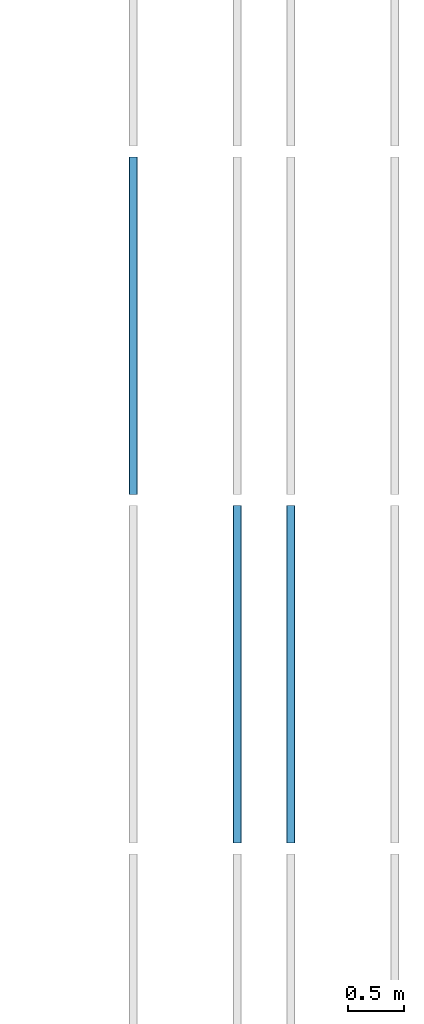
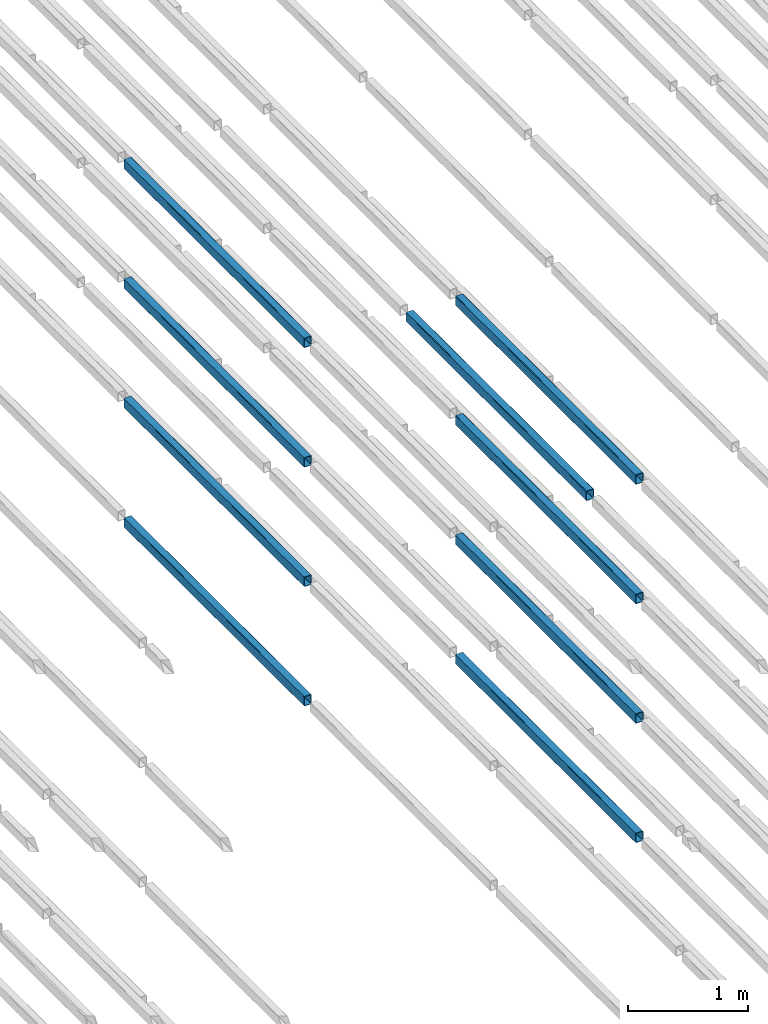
# One storey, part 44 of 290: 9 beams.
"""IFC2X3 building model written with IfcOpenShell, lengths in metres."""

from ifc_helpers import new_model, entity, si_unit, converted_unit, derived_unit, direction, frame, frame_2d, origin, place, context, subcontext, project, spatial, polyline, circle_curve, parameter, trimmed, segment, composite_curve, outline, extrude, material, type_object, element, save


model = new_model("IFC2X3")

# Units and contexts
model_context = context("Model", 3, precision=1e-05, world=origin(), true_north=direction((6.12303176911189e-17, 1.0)))
body_context = subcontext(model_context, "Body", "Model", "MODEL_VIEW")
ifc_project = project(units=[si_unit("LENGTHUNIT", "METRE"), si_unit("AREAUNIT", "SQUARE_METRE"), si_unit("VOLUMEUNIT", "CUBIC_METRE"), converted_unit("PLANEANGLEUNIT", "DEGREE", entity("IfcRatioMeasure", 0.0174532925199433), si_unit("PLANEANGLEUNIT", "RADIAN"), dimensions=[0, 0, 0, 0, 0, 0, 0]), si_unit("MASSUNIT", "GRAM", prefix="KILO"), derived_unit("MASSDENSITYUNIT", [(si_unit("MASSUNIT", "GRAM", prefix="KILO"), 1), (si_unit("LENGTHUNIT", "METRE"), -3)]), derived_unit("MOMENTOFINERTIAUNIT", [(si_unit("LENGTHUNIT", "METRE"), 4)]), si_unit("TIMEUNIT", "SECOND"), si_unit("FREQUENCYUNIT", "HERTZ"), si_unit("THERMODYNAMICTEMPERATUREUNIT", "DEGREE_CELSIUS"), derived_unit("THERMALTRANSMITTANCEUNIT", [(si_unit("MASSUNIT", "GRAM", prefix="KILO"), 1), (si_unit("THERMODYNAMICTEMPERATUREUNIT", "KELVIN"), -1), (si_unit("TIMEUNIT", "SECOND"), -3)]), derived_unit("VOLUMETRICFLOWRATEUNIT", [(si_unit("LENGTHUNIT", "METRE"), 3), (si_unit("TIMEUNIT", "SECOND"), -1)]), si_unit("ELECTRICCURRENTUNIT", "AMPERE"), si_unit("ELECTRICVOLTAGEUNIT", "VOLT"), si_unit("POWERUNIT", "WATT"), si_unit("FORCEUNIT", "NEWTON", prefix="KILO"), si_unit("ILLUMINANCEUNIT", "LUX"), si_unit("LUMINOUSFLUXUNIT", "LUMEN"), si_unit("LUMINOUSINTENSITYUNIT", "CANDELA"), derived_unit("USERDEFINED", [(si_unit("MASSUNIT", "GRAM", prefix="KILO"), -1), (si_unit("LENGTHUNIT", "METRE"), -2), (si_unit("TIMEUNIT", "SECOND"), 3), (si_unit("LUMINOUSFLUXUNIT", "LUMEN"), 1)]), derived_unit("LINEARVELOCITYUNIT", [(si_unit("LENGTHUNIT", "METRE"), 1), (si_unit("TIMEUNIT", "SECOND"), -1)]), si_unit("PRESSUREUNIT", "PASCAL"), derived_unit("USERDEFINED", [(si_unit("LENGTHUNIT", "METRE"), -2), (si_unit("MASSUNIT", "GRAM", prefix="KILO"), 1), (si_unit("TIMEUNIT", "SECOND"), -2)]), derived_unit("LINEARFORCEUNIT", [(si_unit("MASSUNIT", "GRAM", prefix="KILO"), 1), (si_unit("LENGTHUNIT", "METRE"), 1), (si_unit("TIMEUNIT", "SECOND"), -2), (si_unit("LENGTHUNIT", "METRE"), -1)]), derived_unit("PLANARFORCEUNIT", [(si_unit("MASSUNIT", "GRAM", prefix="KILO"), 1), (si_unit("LENGTHUNIT", "METRE"), 1), (si_unit("TIMEUNIT", "SECOND"), -2), (si_unit("LENGTHUNIT", "METRE"), -2)])], contexts=[model_context])

# Site, building, storey
site_placement = place(None, origin())
site = spatial("IfcSite", under=ifc_project, at=site_placement, Name="Default", CompositionType="ELEMENT")
building_placement = place(site_placement, origin())
building = spatial("IfcBuilding", under=site, at=building_placement, CompositionType="ELEMENT")
storey_placement = place(building_placement, frame((0.0, 0.0, 4.0)))
storey = spatial("IfcBuildingStorey", under=building, at=storey_placement, Name="01_OG", CompositionType="ELEMENT", Elevation=4.0)

# Beams
ifc_material = material(Name="Metall - Baustahl S235 blau")
beam_type = type_object("IfcBeamType", Name="RHS Träger (EN 10219-2):RHS 100 x 75 x 5", PredefinedType="NOTDEFINED")
beam_1_placement = place(storey_placement, frame((-195.565111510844, 30.248088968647, 2.445), z_axis=(0.0, 0.0, 1.0), x_axis=(0.0, 1.0, 0.0)))
element("IfcBeam", 1, at=beam_1_placement, inside=storey, type_object=beam_type, material=ifc_material, Name="RHS Träger (EN 10219-2):RHS 100 x 75 x 5", ObjectType="RHS Träger (EN 10219-2):RHS 100 x 75 x 5", context=body_context, shape_type="SweptSolid", body=[
    extrude(outline(composite_curve([segment(polyline([(-0.0399999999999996, -0.0374999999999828), (0.0399999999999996, -0.0374999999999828)]), True, "CONTINUOUS"), segment(trimmed(circle_curve(frame_2d((0.0399999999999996, -0.0274999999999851), x_axis=(0.0, 1.0)), 0.01), [parameter(180.0)], [parameter(270.0)], True, "PARAMETER"), True, "CONTINUOUS"), segment(polyline([(0.0500000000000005, -0.0274999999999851), (0.0500000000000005, 0.0274999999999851)]), True, "CONTINUOUS"), segment(trimmed(circle_curve(frame_2d((0.0399999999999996, 0.0274999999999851), x_axis=(0.0, 1.0)), 0.01), [parameter(270.0)], [parameter(4.07110999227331e-13)], True, "PARAMETER"), True, "CONTINUOUS"), segment(polyline([(0.0399999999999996, 0.0375000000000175), (-0.0399999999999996, 0.0375000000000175)]), True, "CONTINUOUS"), segment(trimmed(circle_curve(frame_2d((-0.0399999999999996, 0.0274999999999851), x_axis=(0.0, 1.0)), 0.01), [parameter(360.0)], [parameter(90.0000000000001)], True, "PARAMETER"), True, "CONTINUOUS"), segment(polyline([(-0.0499999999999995, 0.0274999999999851), (-0.0499999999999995, -0.0274999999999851)]), True, "CONTINUOUS"), segment(trimmed(circle_curve(frame_2d((-0.0399999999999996, -0.0274999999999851), x_axis=(0.0, 1.0)), 0.01), [parameter(90.0000000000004)], [parameter(180.0)], True, "PARAMETER"), True, "CONTINUOUS")], self_intersect=False), holes=[composite_curve([segment(trimmed(circle_curve(frame_2d((-0.0400000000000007, 0.0274999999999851), x_axis=(0.0, 1.0)), 0.005), [parameter(360.0)], [parameter(89.9999999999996)], True, "PARAMETER"), False, "CONTINUOUS"), segment(polyline([(-0.0400000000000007, 0.0325000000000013), (0.0399999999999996, 0.0325000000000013)]), True, "CONTINUOUS"), segment(trimmed(circle_curve(frame_2d((0.0399999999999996, 0.0274999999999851), x_axis=(0.0, 1.0)), 0.005), [parameter(270.0)], [parameter(0.0)], True, "PARAMETER"), False, "CONTINUOUS"), segment(polyline([(0.0449999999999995, 0.0274999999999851), (0.0449999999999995, -0.0274999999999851)]), True, "CONTINUOUS"), segment(trimmed(circle_curve(frame_2d((0.0399999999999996, -0.0274999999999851), x_axis=(0.0, 1.0)), 0.005), [parameter(180.0)], [parameter(269.999999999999)], True, "PARAMETER"), False, "CONTINUOUS"), segment(polyline([(0.0399999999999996, -0.0325000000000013), (-0.0400000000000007, -0.0325000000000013)]), True, "CONTINUOUS"), segment(trimmed(circle_curve(frame_2d((-0.0400000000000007, -0.0274999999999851), x_axis=(0.0, 1.0)), 0.005), [parameter(90.0000000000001)], [parameter(180.0)], True, "PARAMETER"), False, "CONTINUOUS"), segment(polyline([(-0.0450000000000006, -0.0274999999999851), (-0.0450000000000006, 0.0274999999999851)]), True, "CONTINUOUS")], self_intersect=False)]), frame((9.99999999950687e-05, -0.0375000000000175, -0.0500000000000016), z_axis=(1.0, 0.0, 0.0), x_axis=(0.0, 0.0, -1.0)), (0.0, 0.0, 1.0), 2.9998),
])
beam_2_placement = place(storey_placement, frame((-195.015111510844, 30.248088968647, -1.2), z_axis=(0.0, 0.0, 1.0), x_axis=(0.0, 1.0, 0.0)))
element("IfcBeam", 2, at=beam_2_placement, inside=storey, type_object=beam_type, material=ifc_material, Name="RHS Träger (EN 10219-2):RHS 100 x 75 x 5", ObjectType="RHS Träger (EN 10219-2):RHS 100 x 75 x 5", context=body_context, shape_type="SweptSolid", body=[
    extrude(outline(composite_curve([segment(trimmed(circle_curve(frame_2d((-0.0275000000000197, -0.0400000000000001), x_axis=(1.0, 0.0)), 0.01), [parameter(180.0)], [parameter(270.0)], True, "PARAMETER"), True, "CONTINUOUS"), segment(polyline([(-0.0275000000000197, -0.05), (0.0274999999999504, -0.05)]), True, "CONTINUOUS"), segment(trimmed(circle_curve(frame_2d((0.0274999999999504, -0.0400000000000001), x_axis=(1.0, 0.0)), 0.01), [parameter(270.0)], [parameter(5.08888749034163e-14)], True, "PARAMETER"), True, "CONTINUOUS"), segment(polyline([(0.0374999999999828, -0.0400000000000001), (0.0374999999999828, 0.0400000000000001)]), True, "CONTINUOUS"), segment(trimmed(circle_curve(frame_2d((0.0274999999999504, 0.0400000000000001), x_axis=(1.0, 0.0)), 0.01), [parameter(360.0)], [parameter(89.9999999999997)], True, "PARAMETER"), True, "CONTINUOUS"), segment(polyline([(0.0274999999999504, 0.05), (-0.0275000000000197, 0.05)]), True, "CONTINUOUS"), segment(trimmed(circle_curve(frame_2d((-0.0275000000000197, 0.0400000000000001), x_axis=(1.0, 0.0)), 0.01), [parameter(90.0000000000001)], [parameter(180.0)], True, "PARAMETER"), True, "CONTINUOUS"), segment(polyline([(-0.0375000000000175, 0.0400000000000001), (-0.0375000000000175, -0.0400000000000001)]), True, "CONTINUOUS")], self_intersect=False), holes=[composite_curve([segment(polyline([(0.0274999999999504, -0.0450000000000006), (-0.0275000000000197, -0.0450000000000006)]), True, "CONTINUOUS"), segment(trimmed(circle_curve(frame_2d((-0.0275000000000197, -0.0400000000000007), x_axis=(1.0, 0.0)), 0.005), [parameter(180.0)], [parameter(270.0)], True, "PARAMETER"), False, "CONTINUOUS"), segment(polyline([(-0.0325000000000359, -0.0400000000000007), (-0.0325000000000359, 0.039999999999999)]), True, "CONTINUOUS"), segment(trimmed(circle_curve(frame_2d((-0.0275000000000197, 0.039999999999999), x_axis=(1.0, 0.0)), 0.005), [parameter(90.0000000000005)], [parameter(180.0)], True, "PARAMETER"), False, "CONTINUOUS"), segment(polyline([(-0.0275000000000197, 0.044999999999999), (0.0274999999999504, 0.044999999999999)]), True, "CONTINUOUS"), segment(trimmed(circle_curve(frame_2d((0.0274999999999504, 0.039999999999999), x_axis=(1.0, 0.0)), 0.005), [parameter(0.0)], [parameter(90.0000000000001)], True, "PARAMETER"), False, "CONTINUOUS"), segment(polyline([(0.0324999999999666, 0.039999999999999), (0.0324999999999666, -0.0400000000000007)]), True, "CONTINUOUS"), segment(trimmed(circle_curve(frame_2d((0.0274999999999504, -0.0400000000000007), x_axis=(1.0, 0.0)), 0.005), [parameter(270.0)], [parameter(4.07110999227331e-13)], True, "PARAMETER"), False, "CONTINUOUS")], self_intersect=False)]), frame((9.99999999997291e-05, 0.0374999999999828, -0.0500000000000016), z_axis=(1.0, 0.0, 0.0), x_axis=(0.0, -1.0, 0.0)), (0.0, 0.0, 1.0), 2.9998),
])
beam_3_placement = place(storey_placement, frame((-195.015111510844, 30.248088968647, 0.0150000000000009), z_axis=(0.0, 0.0, 1.0), x_axis=(0.0, 1.0, 0.0)))
element("IfcBeam", 3, at=beam_3_placement, inside=storey, type_object=beam_type, material=ifc_material, Name="RHS Träger (EN 10219-2):RHS 100 x 75 x 5", ObjectType="RHS Träger (EN 10219-2):RHS 100 x 75 x 5", context=body_context, shape_type="SweptSolid", body=[
    extrude(outline(composite_curve([segment(trimmed(circle_curve(frame_2d((-0.0275000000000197, -0.0400000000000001), x_axis=(1.0, 0.0)), 0.01), [parameter(180.0)], [parameter(270.0)], True, "PARAMETER"), True, "CONTINUOUS"), segment(polyline([(-0.0275000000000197, -0.05), (0.0274999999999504, -0.05)]), True, "CONTINUOUS"), segment(trimmed(circle_curve(frame_2d((0.0274999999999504, -0.0400000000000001), x_axis=(1.0, 0.0)), 0.01), [parameter(270.0)], [parameter(5.08888749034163e-14)], True, "PARAMETER"), True, "CONTINUOUS"), segment(polyline([(0.0374999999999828, -0.0400000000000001), (0.0374999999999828, 0.0400000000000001)]), True, "CONTINUOUS"), segment(trimmed(circle_curve(frame_2d((0.0274999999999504, 0.0400000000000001), x_axis=(1.0, 0.0)), 0.01), [parameter(360.0)], [parameter(89.9999999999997)], True, "PARAMETER"), True, "CONTINUOUS"), segment(polyline([(0.0274999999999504, 0.05), (-0.0275000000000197, 0.05)]), True, "CONTINUOUS"), segment(trimmed(circle_curve(frame_2d((-0.0275000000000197, 0.0400000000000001), x_axis=(1.0, 0.0)), 0.01), [parameter(90.0000000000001)], [parameter(180.0)], True, "PARAMETER"), True, "CONTINUOUS"), segment(polyline([(-0.0375000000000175, 0.0400000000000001), (-0.0375000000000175, -0.0400000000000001)]), True, "CONTINUOUS")], self_intersect=False), holes=[composite_curve([segment(polyline([(0.0274999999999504, -0.0450000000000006), (-0.0275000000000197, -0.0450000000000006)]), True, "CONTINUOUS"), segment(trimmed(circle_curve(frame_2d((-0.0275000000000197, -0.0400000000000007), x_axis=(1.0, 0.0)), 0.005), [parameter(180.0)], [parameter(270.0)], True, "PARAMETER"), False, "CONTINUOUS"), segment(polyline([(-0.0325000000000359, -0.0400000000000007), (-0.0325000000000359, 0.039999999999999)]), True, "CONTINUOUS"), segment(trimmed(circle_curve(frame_2d((-0.0275000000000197, 0.039999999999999), x_axis=(1.0, 0.0)), 0.005), [parameter(90.0000000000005)], [parameter(180.0)], True, "PARAMETER"), False, "CONTINUOUS"), segment(polyline([(-0.0275000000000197, 0.044999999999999), (0.0274999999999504, 0.044999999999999)]), True, "CONTINUOUS"), segment(trimmed(circle_curve(frame_2d((0.0274999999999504, 0.039999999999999), x_axis=(1.0, 0.0)), 0.005), [parameter(0.0)], [parameter(90.0000000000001)], True, "PARAMETER"), False, "CONTINUOUS"), segment(polyline([(0.0324999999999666, 0.039999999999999), (0.0324999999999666, -0.0400000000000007)]), True, "CONTINUOUS"), segment(trimmed(circle_curve(frame_2d((0.0274999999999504, -0.0400000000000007), x_axis=(1.0, 0.0)), 0.005), [parameter(270.0)], [parameter(4.07110999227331e-13)], True, "PARAMETER"), False, "CONTINUOUS")], self_intersect=False)]), frame((9.99999999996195e-05, 0.0374999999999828, -0.0500000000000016), z_axis=(1.0, 0.0, 0.0), x_axis=(0.0, -1.0, 0.0)), (0.0, 0.0, 1.0), 2.9998),
])
beam_4_placement = place(storey_placement, frame((-195.015111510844, 30.248088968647, 1.23), z_axis=(0.0, 0.0, 1.0), x_axis=(0.0, 1.0, 0.0)))
element("IfcBeam", 4, at=beam_4_placement, inside=storey, type_object=beam_type, material=ifc_material, Name="RHS Träger (EN 10219-2):RHS 100 x 75 x 5", ObjectType="RHS Träger (EN 10219-2):RHS 100 x 75 x 5", context=body_context, shape_type="SweptSolid", body=[
    extrude(outline(composite_curve([segment(trimmed(circle_curve(frame_2d((-0.0275000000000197, -0.0399999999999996), x_axis=(1.0, 0.0)), 0.01), [parameter(180.0)], [parameter(270.0)], True, "PARAMETER"), True, "CONTINUOUS"), segment(polyline([(-0.0275000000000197, -0.0499999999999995), (0.0274999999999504, -0.0499999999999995)]), True, "CONTINUOUS"), segment(trimmed(circle_curve(frame_2d((0.0274999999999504, -0.0399999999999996), x_axis=(1.0, 0.0)), 0.01), [parameter(270.0)], [parameter(5.08888749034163e-14)], True, "PARAMETER"), True, "CONTINUOUS"), segment(polyline([(0.0374999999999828, -0.0399999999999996), (0.0374999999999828, 0.0399999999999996)]), True, "CONTINUOUS"), segment(trimmed(circle_curve(frame_2d((0.0274999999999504, 0.0399999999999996), x_axis=(1.0, 0.0)), 0.01), [parameter(360.0)], [parameter(89.9999999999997)], True, "PARAMETER"), True, "CONTINUOUS"), segment(polyline([(0.0274999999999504, 0.0500000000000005), (-0.0275000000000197, 0.0500000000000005)]), True, "CONTINUOUS"), segment(trimmed(circle_curve(frame_2d((-0.0275000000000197, 0.0399999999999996), x_axis=(1.0, 0.0)), 0.01), [parameter(90.0000000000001)], [parameter(180.0)], True, "PARAMETER"), True, "CONTINUOUS"), segment(polyline([(-0.0375000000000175, 0.0399999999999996), (-0.0375000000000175, -0.0399999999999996)]), True, "CONTINUOUS")], self_intersect=False), holes=[composite_curve([segment(polyline([(0.0274999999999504, -0.0450000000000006), (-0.0275000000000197, -0.0450000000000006)]), True, "CONTINUOUS"), segment(trimmed(circle_curve(frame_2d((-0.0275000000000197, -0.0400000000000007), x_axis=(1.0, 0.0)), 0.005), [parameter(180.0)], [parameter(270.0)], True, "PARAMETER"), False, "CONTINUOUS"), segment(polyline([(-0.0325000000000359, -0.0400000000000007), (-0.0325000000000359, 0.0399999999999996)]), True, "CONTINUOUS"), segment(trimmed(circle_curve(frame_2d((-0.0275000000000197, 0.0399999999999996), x_axis=(1.0, 0.0)), 0.005), [parameter(90.0000000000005)], [parameter(180.0)], True, "PARAMETER"), False, "CONTINUOUS"), segment(polyline([(-0.0275000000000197, 0.0449999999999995), (0.0274999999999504, 0.0449999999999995)]), True, "CONTINUOUS"), segment(trimmed(circle_curve(frame_2d((0.0274999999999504, 0.0399999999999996), x_axis=(1.0, 0.0)), 0.005), [parameter(0.0)], [parameter(90.0000000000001)], True, "PARAMETER"), False, "CONTINUOUS"), segment(polyline([(0.0324999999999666, 0.0399999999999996), (0.0324999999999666, -0.0400000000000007)]), True, "CONTINUOUS"), segment(trimmed(circle_curve(frame_2d((0.0274999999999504, -0.0400000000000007), x_axis=(1.0, 0.0)), 0.005), [parameter(270.0)], [parameter(4.07110999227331e-13)], True, "PARAMETER"), False, "CONTINUOUS")], self_intersect=False)]), frame((9.99999999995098e-05, 0.0374999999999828, -0.0500000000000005), z_axis=(1.0, 0.0, 0.0), x_axis=(0.0, -1.0, 0.0)), (0.0, 0.0, 1.0), 2.9998),
])
beam_5_placement = place(storey_placement, frame((-195.015111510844, 30.248088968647, 2.445), z_axis=(0.0, 0.0, 1.0), x_axis=(0.0, 1.0, 0.0)))
element("IfcBeam", 5, at=beam_5_placement, inside=storey, type_object=beam_type, material=ifc_material, Name="RHS Träger (EN 10219-2):RHS 100 x 75 x 5", ObjectType="RHS Träger (EN 10219-2):RHS 100 x 75 x 5", context=body_context, shape_type="SweptSolid", body=[
    extrude(outline(composite_curve([segment(trimmed(circle_curve(frame_2d((-0.0275000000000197, -0.0399999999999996), x_axis=(1.0, 0.0)), 0.01), [parameter(180.0)], [parameter(270.0)], True, "PARAMETER"), True, "CONTINUOUS"), segment(polyline([(-0.0275000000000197, -0.0499999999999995), (0.0274999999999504, -0.0499999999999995)]), True, "CONTINUOUS"), segment(trimmed(circle_curve(frame_2d((0.0274999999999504, -0.0399999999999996), x_axis=(1.0, 0.0)), 0.01), [parameter(270.0)], [parameter(5.08888749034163e-14)], True, "PARAMETER"), True, "CONTINUOUS"), segment(polyline([(0.0374999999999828, -0.0399999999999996), (0.0374999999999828, 0.0399999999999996)]), True, "CONTINUOUS"), segment(trimmed(circle_curve(frame_2d((0.0274999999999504, 0.0399999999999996), x_axis=(1.0, 0.0)), 0.01), [parameter(360.0)], [parameter(89.9999999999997)], True, "PARAMETER"), True, "CONTINUOUS"), segment(polyline([(0.0274999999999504, 0.0500000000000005), (-0.0275000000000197, 0.0500000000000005)]), True, "CONTINUOUS"), segment(trimmed(circle_curve(frame_2d((-0.0275000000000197, 0.0399999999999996), x_axis=(1.0, 0.0)), 0.01), [parameter(90.0000000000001)], [parameter(180.0)], True, "PARAMETER"), True, "CONTINUOUS"), segment(polyline([(-0.0375000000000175, 0.0399999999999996), (-0.0375000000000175, -0.0399999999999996)]), True, "CONTINUOUS")], self_intersect=False), holes=[composite_curve([segment(polyline([(0.0274999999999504, -0.0450000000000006), (-0.0275000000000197, -0.0450000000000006)]), True, "CONTINUOUS"), segment(trimmed(circle_curve(frame_2d((-0.0275000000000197, -0.0400000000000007), x_axis=(1.0, 0.0)), 0.005), [parameter(180.0)], [parameter(270.0)], True, "PARAMETER"), False, "CONTINUOUS"), segment(polyline([(-0.0325000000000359, -0.0400000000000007), (-0.0325000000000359, 0.0399999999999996)]), True, "CONTINUOUS"), segment(trimmed(circle_curve(frame_2d((-0.0275000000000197, 0.0399999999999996), x_axis=(1.0, 0.0)), 0.005), [parameter(90.0000000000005)], [parameter(180.0)], True, "PARAMETER"), False, "CONTINUOUS"), segment(polyline([(-0.0275000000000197, 0.0449999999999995), (0.0274999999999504, 0.0449999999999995)]), True, "CONTINUOUS"), segment(trimmed(circle_curve(frame_2d((0.0274999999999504, 0.0399999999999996), x_axis=(1.0, 0.0)), 0.005), [parameter(0.0)], [parameter(90.0000000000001)], True, "PARAMETER"), False, "CONTINUOUS"), segment(polyline([(0.0324999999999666, 0.0399999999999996), (0.0324999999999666, -0.0400000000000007)]), True, "CONTINUOUS"), segment(trimmed(circle_curve(frame_2d((0.0274999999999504, -0.0400000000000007), x_axis=(1.0, 0.0)), 0.005), [parameter(270.0)], [parameter(4.07110999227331e-13)], True, "PARAMETER"), False, "CONTINUOUS")], self_intersect=False)]), frame((9.99999999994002e-05, 0.0374999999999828, -0.0500000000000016), z_axis=(1.0, 0.0, 0.0), x_axis=(0.0, -1.0, 0.0)), (0.0, 0.0, 1.0), 2.9998),
])
beam_6_placement = place(storey_placement, frame((-196.415111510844, 33.348088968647, -1.2), z_axis=(0.0, 0.0, 1.0), x_axis=(0.0, 1.0, 0.0)))
element("IfcBeam", 6, at=beam_6_placement, inside=storey, type_object=beam_type, material=ifc_material, Name="RHS Träger (EN 10219-2):RHS 100 x 75 x 5", ObjectType="RHS Träger (EN 10219-2):RHS 100 x 75 x 5", context=body_context, shape_type="SweptSolid", body=[
    extrude(outline(composite_curve([segment(trimmed(circle_curve(frame_2d((-0.0274999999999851, -0.0400000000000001), x_axis=(1.0, 0.0)), 0.01), [parameter(180.0)], [parameter(270.0)], True, "PARAMETER"), True, "CONTINUOUS"), segment(polyline([(-0.0274999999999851, -0.05), (0.0274999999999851, -0.05)]), True, "CONTINUOUS"), segment(trimmed(circle_curve(frame_2d((0.0274999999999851, -0.0400000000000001), x_axis=(1.0, 0.0)), 0.01), [parameter(270.0)], [parameter(5.08888749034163e-14)], True, "PARAMETER"), True, "CONTINUOUS"), segment(polyline([(0.0375000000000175, -0.0400000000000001), (0.0375000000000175, 0.0400000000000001)]), True, "CONTINUOUS"), segment(trimmed(circle_curve(frame_2d((0.0274999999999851, 0.0400000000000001), x_axis=(1.0, 0.0)), 0.01), [parameter(360.0)], [parameter(89.9999999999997)], True, "PARAMETER"), True, "CONTINUOUS"), segment(polyline([(0.0274999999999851, 0.05), (-0.0274999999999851, 0.05)]), True, "CONTINUOUS"), segment(trimmed(circle_curve(frame_2d((-0.0274999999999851, 0.0400000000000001), x_axis=(1.0, 0.0)), 0.01), [parameter(90.0000000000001)], [parameter(180.0)], True, "PARAMETER"), True, "CONTINUOUS"), segment(polyline([(-0.0374999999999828, 0.0400000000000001), (-0.0374999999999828, -0.0400000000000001)]), True, "CONTINUOUS")], self_intersect=False), holes=[composite_curve([segment(polyline([(0.0274999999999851, -0.0450000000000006), (-0.0274999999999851, -0.0450000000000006)]), True, "CONTINUOUS"), segment(trimmed(circle_curve(frame_2d((-0.0274999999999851, -0.0400000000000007), x_axis=(1.0, 0.0)), 0.005), [parameter(180.0)], [parameter(270.0)], True, "PARAMETER"), False, "CONTINUOUS"), segment(polyline([(-0.0325000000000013, -0.0400000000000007), (-0.0325000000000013, 0.039999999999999)]), True, "CONTINUOUS"), segment(trimmed(circle_curve(frame_2d((-0.0274999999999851, 0.039999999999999), x_axis=(1.0, 0.0)), 0.005), [parameter(90.0000000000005)], [parameter(180.0)], True, "PARAMETER"), False, "CONTINUOUS"), segment(polyline([(-0.0274999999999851, 0.044999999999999), (0.0274999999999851, 0.044999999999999)]), True, "CONTINUOUS"), segment(trimmed(circle_curve(frame_2d((0.0274999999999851, 0.039999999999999), x_axis=(1.0, 0.0)), 0.005), [parameter(0.0)], [parameter(90.0000000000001)], True, "PARAMETER"), False, "CONTINUOUS"), segment(polyline([(0.0325000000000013, 0.039999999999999), (0.0325000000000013, -0.0400000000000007)]), True, "CONTINUOUS"), segment(trimmed(circle_curve(frame_2d((0.0274999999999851, -0.0400000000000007), x_axis=(1.0, 0.0)), 0.005), [parameter(270.0)], [parameter(4.07110999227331e-13)], True, "PARAMETER"), False, "CONTINUOUS")], self_intersect=False)]), frame((0.000100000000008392, 0.0375000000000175, -0.0500000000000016), z_axis=(1.0, 0.0, 0.0), x_axis=(0.0, -1.0, 0.0)), (0.0, 0.0, 1.0), 2.9998),
])
beam_7_placement = place(storey_placement, frame((-196.415111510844, 33.348088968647, 0.0150000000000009), z_axis=(0.0, 0.0, 1.0), x_axis=(0.0, 1.0, 0.0)))
element("IfcBeam", 7, at=beam_7_placement, inside=storey, type_object=beam_type, material=ifc_material, Name="RHS Träger (EN 10219-2):RHS 100 x 75 x 5", ObjectType="RHS Träger (EN 10219-2):RHS 100 x 75 x 5", context=body_context, shape_type="SweptSolid", body=[
    extrude(outline(composite_curve([segment(trimmed(circle_curve(frame_2d((-0.0274999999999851, -0.0400000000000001), x_axis=(1.0, 0.0)), 0.01), [parameter(180.0)], [parameter(270.0)], True, "PARAMETER"), True, "CONTINUOUS"), segment(polyline([(-0.0274999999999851, -0.05), (0.0274999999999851, -0.05)]), True, "CONTINUOUS"), segment(trimmed(circle_curve(frame_2d((0.0274999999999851, -0.0400000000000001), x_axis=(1.0, 0.0)), 0.01), [parameter(270.0)], [parameter(5.08888749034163e-14)], True, "PARAMETER"), True, "CONTINUOUS"), segment(polyline([(0.0375000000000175, -0.0400000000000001), (0.0375000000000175, 0.0400000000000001)]), True, "CONTINUOUS"), segment(trimmed(circle_curve(frame_2d((0.0274999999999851, 0.0400000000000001), x_axis=(1.0, 0.0)), 0.01), [parameter(360.0)], [parameter(89.9999999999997)], True, "PARAMETER"), True, "CONTINUOUS"), segment(polyline([(0.0274999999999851, 0.05), (-0.0274999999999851, 0.05)]), True, "CONTINUOUS"), segment(trimmed(circle_curve(frame_2d((-0.0274999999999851, 0.0400000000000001), x_axis=(1.0, 0.0)), 0.01), [parameter(90.0000000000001)], [parameter(180.0)], True, "PARAMETER"), True, "CONTINUOUS"), segment(polyline([(-0.0374999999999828, 0.0400000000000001), (-0.0374999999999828, -0.0400000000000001)]), True, "CONTINUOUS")], self_intersect=False), holes=[composite_curve([segment(polyline([(0.0274999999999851, -0.0450000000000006), (-0.0274999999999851, -0.0450000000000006)]), True, "CONTINUOUS"), segment(trimmed(circle_curve(frame_2d((-0.0274999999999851, -0.0400000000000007), x_axis=(1.0, 0.0)), 0.005), [parameter(180.0)], [parameter(270.0)], True, "PARAMETER"), False, "CONTINUOUS"), segment(polyline([(-0.0325000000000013, -0.0400000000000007), (-0.0325000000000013, 0.039999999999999)]), True, "CONTINUOUS"), segment(trimmed(circle_curve(frame_2d((-0.0274999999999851, 0.039999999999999), x_axis=(1.0, 0.0)), 0.005), [parameter(90.0000000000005)], [parameter(180.0)], True, "PARAMETER"), False, "CONTINUOUS"), segment(polyline([(-0.0274999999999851, 0.044999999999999), (0.0274999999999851, 0.044999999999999)]), True, "CONTINUOUS"), segment(trimmed(circle_curve(frame_2d((0.0274999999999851, 0.039999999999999), x_axis=(1.0, 0.0)), 0.005), [parameter(0.0)], [parameter(90.0000000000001)], True, "PARAMETER"), False, "CONTINUOUS"), segment(polyline([(0.0325000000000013, 0.039999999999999), (0.0325000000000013, -0.0400000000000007)]), True, "CONTINUOUS"), segment(trimmed(circle_curve(frame_2d((0.0274999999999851, -0.0400000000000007), x_axis=(1.0, 0.0)), 0.005), [parameter(270.0)], [parameter(4.07110999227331e-13)], True, "PARAMETER"), False, "CONTINUOUS")], self_intersect=False)]), frame((0.000100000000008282, 0.0375000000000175, -0.0500000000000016), z_axis=(1.0, 0.0, 0.0), x_axis=(0.0, -1.0, 0.0)), (0.0, 0.0, 1.0), 2.9998),
])
beam_8_placement = place(storey_placement, frame((-196.415111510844, 33.348088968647, 1.23), z_axis=(0.0, 0.0, 1.0), x_axis=(0.0, 1.0, 0.0)))
element("IfcBeam", 8, at=beam_8_placement, inside=storey, type_object=beam_type, material=ifc_material, Name="RHS Träger (EN 10219-2):RHS 100 x 75 x 5", ObjectType="RHS Träger (EN 10219-2):RHS 100 x 75 x 5", context=body_context, shape_type="SweptSolid", body=[
    extrude(outline(composite_curve([segment(trimmed(circle_curve(frame_2d((-0.0274999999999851, -0.0399999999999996), x_axis=(1.0, 0.0)), 0.01), [parameter(180.0)], [parameter(270.0)], True, "PARAMETER"), True, "CONTINUOUS"), segment(polyline([(-0.0274999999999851, -0.0499999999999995), (0.0274999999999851, -0.0499999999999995)]), True, "CONTINUOUS"), segment(trimmed(circle_curve(frame_2d((0.0274999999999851, -0.0399999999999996), x_axis=(1.0, 0.0)), 0.01), [parameter(270.0)], [parameter(5.08888749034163e-14)], True, "PARAMETER"), True, "CONTINUOUS"), segment(polyline([(0.0375000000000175, -0.0399999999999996), (0.0375000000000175, 0.0399999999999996)]), True, "CONTINUOUS"), segment(trimmed(circle_curve(frame_2d((0.0274999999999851, 0.0399999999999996), x_axis=(1.0, 0.0)), 0.01), [parameter(360.0)], [parameter(89.9999999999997)], True, "PARAMETER"), True, "CONTINUOUS"), segment(polyline([(0.0274999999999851, 0.0500000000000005), (-0.0274999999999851, 0.0500000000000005)]), True, "CONTINUOUS"), segment(trimmed(circle_curve(frame_2d((-0.0274999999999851, 0.0399999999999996), x_axis=(1.0, 0.0)), 0.01), [parameter(90.0000000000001)], [parameter(180.0)], True, "PARAMETER"), True, "CONTINUOUS"), segment(polyline([(-0.0374999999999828, 0.0399999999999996), (-0.0374999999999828, -0.0399999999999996)]), True, "CONTINUOUS")], self_intersect=False), holes=[composite_curve([segment(polyline([(0.0274999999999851, -0.0450000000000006), (-0.0274999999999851, -0.0450000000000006)]), True, "CONTINUOUS"), segment(trimmed(circle_curve(frame_2d((-0.0274999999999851, -0.0400000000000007), x_axis=(1.0, 0.0)), 0.005), [parameter(180.0)], [parameter(270.0)], True, "PARAMETER"), False, "CONTINUOUS"), segment(polyline([(-0.0325000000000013, -0.0400000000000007), (-0.0325000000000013, 0.0399999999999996)]), True, "CONTINUOUS"), segment(trimmed(circle_curve(frame_2d((-0.0274999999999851, 0.0399999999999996), x_axis=(1.0, 0.0)), 0.005), [parameter(90.0000000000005)], [parameter(180.0)], True, "PARAMETER"), False, "CONTINUOUS"), segment(polyline([(-0.0274999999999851, 0.0449999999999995), (0.0274999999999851, 0.0449999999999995)]), True, "CONTINUOUS"), segment(trimmed(circle_curve(frame_2d((0.0274999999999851, 0.0399999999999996), x_axis=(1.0, 0.0)), 0.005), [parameter(0.0)], [parameter(90.0000000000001)], True, "PARAMETER"), False, "CONTINUOUS"), segment(polyline([(0.0325000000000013, 0.0399999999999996), (0.0325000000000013, -0.0400000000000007)]), True, "CONTINUOUS"), segment(trimmed(circle_curve(frame_2d((0.0274999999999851, -0.0400000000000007), x_axis=(1.0, 0.0)), 0.005), [parameter(270.0)], [parameter(4.07110999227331e-13)], True, "PARAMETER"), False, "CONTINUOUS")], self_intersect=False)]), frame((0.000100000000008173, 0.0375000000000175, -0.0500000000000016), z_axis=(1.0, 0.0, 0.0), x_axis=(0.0, -1.0, 0.0)), (0.0, 0.0, 1.0), 2.9998),
])
beam_9_placement = place(storey_placement, frame((-196.415111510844, 33.348088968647, 2.445), z_axis=(0.0, 0.0, 1.0), x_axis=(0.0, 1.0, 0.0)))
element("IfcBeam", 9, at=beam_9_placement, inside=storey, type_object=beam_type, material=ifc_material, Name="RHS Träger (EN 10219-2):RHS 100 x 75 x 5", ObjectType="RHS Träger (EN 10219-2):RHS 100 x 75 x 5", context=body_context, shape_type="SweptSolid", body=[
    extrude(outline(composite_curve([segment(trimmed(circle_curve(frame_2d((-0.0274999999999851, -0.0399999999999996), x_axis=(1.0, 0.0)), 0.01), [parameter(180.0)], [parameter(270.0)], True, "PARAMETER"), True, "CONTINUOUS"), segment(polyline([(-0.0274999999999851, -0.0499999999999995), (0.0274999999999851, -0.0499999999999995)]), True, "CONTINUOUS"), segment(trimmed(circle_curve(frame_2d((0.0274999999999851, -0.0399999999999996), x_axis=(1.0, 0.0)), 0.01), [parameter(270.0)], [parameter(5.08888749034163e-14)], True, "PARAMETER"), True, "CONTINUOUS"), segment(polyline([(0.0375000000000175, -0.0399999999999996), (0.0375000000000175, 0.0399999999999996)]), True, "CONTINUOUS"), segment(trimmed(circle_curve(frame_2d((0.0274999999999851, 0.0399999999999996), x_axis=(1.0, 0.0)), 0.01), [parameter(360.0)], [parameter(89.9999999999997)], True, "PARAMETER"), True, "CONTINUOUS"), segment(polyline([(0.0274999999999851, 0.0500000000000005), (-0.0274999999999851, 0.0500000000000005)]), True, "CONTINUOUS"), segment(trimmed(circle_curve(frame_2d((-0.0274999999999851, 0.0399999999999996), x_axis=(1.0, 0.0)), 0.01), [parameter(90.0000000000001)], [parameter(180.0)], True, "PARAMETER"), True, "CONTINUOUS"), segment(polyline([(-0.0374999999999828, 0.0399999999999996), (-0.0374999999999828, -0.0399999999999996)]), True, "CONTINUOUS")], self_intersect=False), holes=[composite_curve([segment(polyline([(0.0274999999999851, -0.0450000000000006), (-0.0274999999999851, -0.0450000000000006)]), True, "CONTINUOUS"), segment(trimmed(circle_curve(frame_2d((-0.0274999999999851, -0.0400000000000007), x_axis=(1.0, 0.0)), 0.005), [parameter(180.0)], [parameter(270.0)], True, "PARAMETER"), False, "CONTINUOUS"), segment(polyline([(-0.0325000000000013, -0.0400000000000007), (-0.0325000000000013, 0.0399999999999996)]), True, "CONTINUOUS"), segment(trimmed(circle_curve(frame_2d((-0.0274999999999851, 0.0399999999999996), x_axis=(1.0, 0.0)), 0.005), [parameter(90.0000000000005)], [parameter(180.0)], True, "PARAMETER"), False, "CONTINUOUS"), segment(polyline([(-0.0274999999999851, 0.0449999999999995), (0.0274999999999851, 0.0449999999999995)]), True, "CONTINUOUS"), segment(trimmed(circle_curve(frame_2d((0.0274999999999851, 0.0399999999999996), x_axis=(1.0, 0.0)), 0.005), [parameter(0.0)], [parameter(90.0000000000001)], True, "PARAMETER"), False, "CONTINUOUS"), segment(polyline([(0.0325000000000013, 0.0399999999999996), (0.0325000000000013, -0.0400000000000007)]), True, "CONTINUOUS"), segment(trimmed(circle_curve(frame_2d((0.0274999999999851, -0.0400000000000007), x_axis=(1.0, 0.0)), 0.005), [parameter(270.0)], [parameter(4.07110999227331e-13)], True, "PARAMETER"), False, "CONTINUOUS")], self_intersect=False)]), frame((0.000100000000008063, 0.0375000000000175, -0.0500000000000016), z_axis=(1.0, 0.0, 0.0), x_axis=(0.0, -1.0, 0.0)), (0.0, 0.0, 1.0), 2.9998),
])

save(model, "model.ifc")
